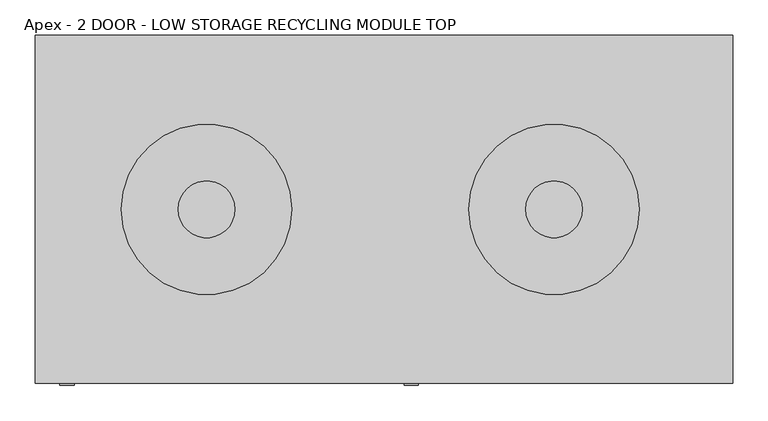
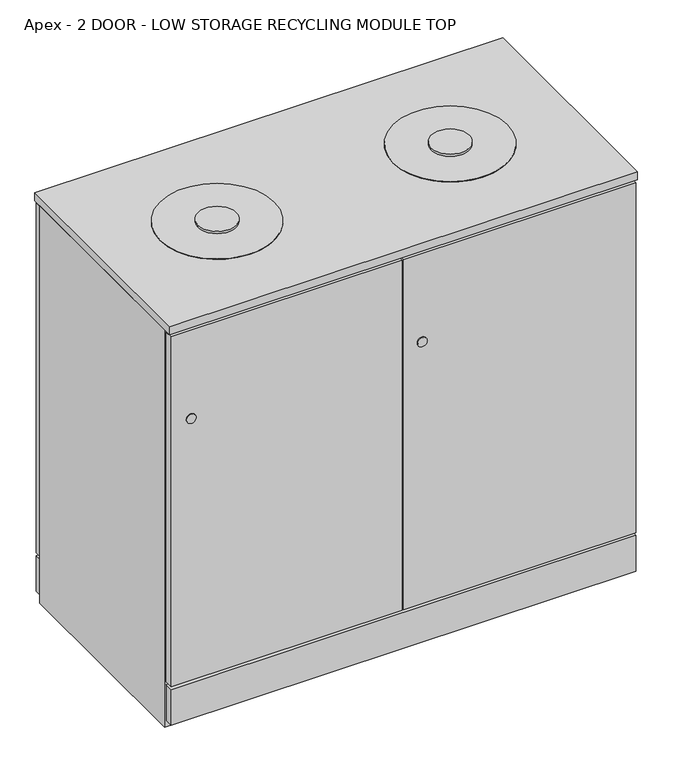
"""IFC4 building model written with IfcOpenShell, lengths in millimetres: furniture geometry, Apex - 2 DOOR - LOW STORAGE RECYCLING MODULE TOP : APEX-SW-18-RCTP2 500mm(w) x 490mm(d) x 1028mm(h)."""

from ifc_helpers import new_model, si_unit, point, frame, frame_2d, origin, place, context, project, spatial, polyline, circle_curve, trimmed, segment, composite_curve, outline, extrude, source, transform, mapped, element, save


def apex_2_door_low_storage_recycling_module_top_97303b22(model_context):
    return source(origin(), model_context, "Body", "SweptSolid", [
        extrude(outline(composite_curve([segment(trimmed(circle_curve(frame_2d((730.5010315, -245.0)), 40.0), [point((690.5010315, -245.0))], [point((770.5010315, -245.0))], False, "CARTESIAN"), True, "CONTINUOUS"), segment(trimmed(circle_curve(frame_2d((730.5010315, -245.0)), 40.0), [point((770.5010315, -245.0))], [point((690.5010315, -245.0))], False, "CARTESIAN"), True, "CONTINUOUS")], self_intersect=False)), frame((0.0, 0.0, 900.9881138), z_axis=(0.0, 0.0, 1.0), x_axis=(1.0, 0.0, 0.0)), (0.0, 0.0, 1.0), 4.970957),
        extrude(outline(composite_curve([segment(trimmed(circle_curve(frame_2d((730.5010315, -245.0)), 120.0), [point((610.5010315, -245.0))], [point((850.5010315, -245.0))], False, "CARTESIAN"), True, "CONTINUOUS"), segment(trimmed(circle_curve(frame_2d((730.5010315, -245.0)), 120.0), [point((850.5010315, -245.0))], [point((610.5010315, -245.0))], False, "CARTESIAN"), True, "CONTINUOUS")], self_intersect=False)), frame((0.0, 0.0, 900.0), z_axis=(0.0, 0.0, 1.0), x_axis=(1.0, 0.0, 0.0)), (0.0, 0.0, 1.0), 0.9881138),
        extrude(outline(composite_curve([segment(trimmed(circle_curve(frame_2d((241.0, -245.0)), 40.0), [point((201.0, -245.0))], [point((281.0, -245.0))], False, "CARTESIAN"), True, "CONTINUOUS"), segment(trimmed(circle_curve(frame_2d((241.0, -245.0)), 40.0), [point((281.0, -245.0))], [point((201.0, -245.0))], False, "CARTESIAN"), True, "CONTINUOUS")], self_intersect=False)), frame((0.0, 0.0, 900.9881138), z_axis=(0.0, 0.0, 1.0), x_axis=(1.0, 0.0, 0.0)), (0.0, 0.0, 1.0), 4.970957),
        extrude(outline(composite_curve([segment(trimmed(circle_curve(frame_2d((241.0, -245.0)), 120.0), [point((121.0, -245.0))], [point((361.0, -245.0))], False, "CARTESIAN"), True, "CONTINUOUS"), segment(trimmed(circle_curve(frame_2d((241.0, -245.0)), 120.0), [point((361.0, -245.0))], [point((121.0, -245.0))], False, "CARTESIAN"), True, "CONTINUOUS")], self_intersect=False)), frame((0.0, 0.0, 900.0), z_axis=(0.0, 0.0, 1.0), x_axis=(1.0, 0.0, 0.0)), (0.0, 0.0, 1.0), 0.9881138),
        extrude(outline(polyline([(487.997937, -490.0), (3.0, -490.0), (3.0, -472.0), (487.997937, -472.0), (487.997937, -490.0)])), frame((0.0, 0.0, 100.0), z_axis=(0.0, 0.0, 1.0), x_axis=(1.0, 0.0, 0.0)), (0.0, 0.0, 1.0), 776.0),
        extrude(outline(composite_curve([segment(trimmed(circle_curve(frame_2d((681.6890437, 529.3693484)), 10.0), [point((681.6890437, 519.3693484))], [point((681.6890437, 539.3693484))], False, "CARTESIAN"), True, "CONTINUOUS"), segment(trimmed(circle_curve(frame_2d((681.6890437, 529.3693484)), 10.0), [point((681.6890437, 539.3693484))], [point((681.6890437, 519.3693484))], False, "CARTESIAN"), True, "CONTINUOUS")], self_intersect=False)), frame((0.0, -492.5494383, 0.0), z_axis=(0.0, 1.0, 0.0), x_axis=(0.0, 0.0, 1.0)), (0.0, 0.0, 1.0), 2.5494383),
        extrude(outline(composite_curve([segment(trimmed(circle_curve(frame_2d((681.6890437, 44.3714114)), 10.0), [point((681.6890437, 34.3714114))], [point((681.6890437, 54.3714114))], False, "CARTESIAN"), True, "CONTINUOUS"), segment(trimmed(circle_curve(frame_2d((681.6890437, 44.3714114)), 10.0), [point((681.6890437, 54.3714114))], [point((681.6890437, 34.3714114))], False, "CARTESIAN"), True, "CONTINUOUS")], self_intersect=False)), frame((0.0, -492.5494383, 0.0), z_axis=(0.0, 1.0, 0.0), x_axis=(0.0, 0.0, 1.0)), (0.0, 0.0, 1.0), 2.5494383),
        extrude(outline(polyline([(979.0, -490.0), (491.0, -490.0), (491.0, -472.0), (979.0, -472.0), (979.0, -490.0)])), frame((0.0, 0.0, 100.0), z_axis=(0.0, 0.0, 1.0), x_axis=(1.0, 0.0, 0.0)), (0.0, 0.0, 1.0), 776.0),
        extrude(outline(polyline([(982.0, -490.0), (0.0, -490.0), (0.0, 0.0), (982.0, 0.0), (982.0, -490.0)])), frame((0.0, 0.0, 882.0), z_axis=(0.0, 0.0, 1.0), x_axis=(1.0, 0.0, 0.0)), (0.0, 0.0, 1.0), 18.0),
        extrude(outline(polyline([(882.0, 982.0), (882.0, 0.0), (0.0, 0.0), (0.0, 982.0), (882.0, 982.0)]), holes=[polyline([(100.0, 487.997937), (100.0, 3.0), (876.0, 3.0), (876.0, 487.997937), (100.0, 487.997937)])]), frame((0.0, -472.0, 0.0), z_axis=(0.0, 1.0, 0.0), x_axis=(0.0, 0.0, 1.0)), (0.0, 0.0, 1.0), 454.0),
        extrude(outline(polyline([(979.0, 0.0), (979.0, -18.0), (3.0, -18.0), (3.0, 0.0), (979.0, 0.0)])), frame((0.0, 0.0, 100.0), z_axis=(0.0, 0.0, 1.0), x_axis=(1.0, 0.0, 0.0)), (0.0, 0.0, 1.0), 776.0),
        extrude(outline(polyline([(979.0, -18.0), (3.0, -18.0), (3.0, 0.0), (979.0, 0.0), (979.0, -18.0)])), frame((0.0, 0.0, 15.0), z_axis=(0.0, 0.0, 1.0), x_axis=(1.0, 0.0, 0.0)), (0.0, 0.0, 1.0), 79.0),
        extrude(outline(polyline([(979.0, -490.0), (3.0, -490.0), (3.0, -472.0), (979.0, -472.0), (979.0, -490.0)])), frame((0.0, 0.0, 15.0), z_axis=(0.0, 0.0, 1.0), x_axis=(1.0, 0.0, 0.0)), (0.0, 0.0, 1.0), 79.0),
    ])


if __name__ == "__main__":
    model = new_model("IFC4")
    model_context = context("Model", 3, world=origin())
    ifc_project = project(units=[si_unit("LENGTHUNIT", "METRE", prefix="MILLI")], contexts=[model_context])
    site = spatial("IfcSite", under=ifc_project)
    building = spatial("IfcBuilding", under=site)
    placement = place(None, origin())
    apex_2_door_low_storage_recycling_module_top_shape = apex_2_door_low_storage_recycling_module_top_97303b22(model_context)
    element("IfcFurniture", 1, ObjectType="Apex - 2 DOOR - LOW STORAGE RECYCLING MODULE TOP : APEX-SW-18-RCTP2 500mm(w) x 490mm(d) x 1028mm(h)", at=placement, inside=building, context=model_context, shape_type="MappedRepresentation", body=[
        mapped(apex_2_door_low_storage_recycling_module_top_shape, transform((0.0, 0.0, 0.0), x_axis=(1.0, 0.0, 0.0), y_axis=(0.0, 1.0, 0.0), z_axis=(0.0, 0.0, 1.0))),
    ])
    save(model, "model.ifc")
